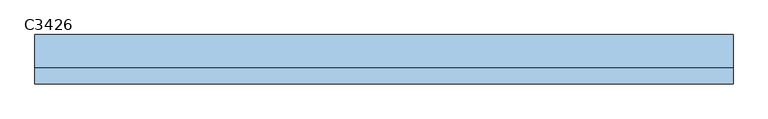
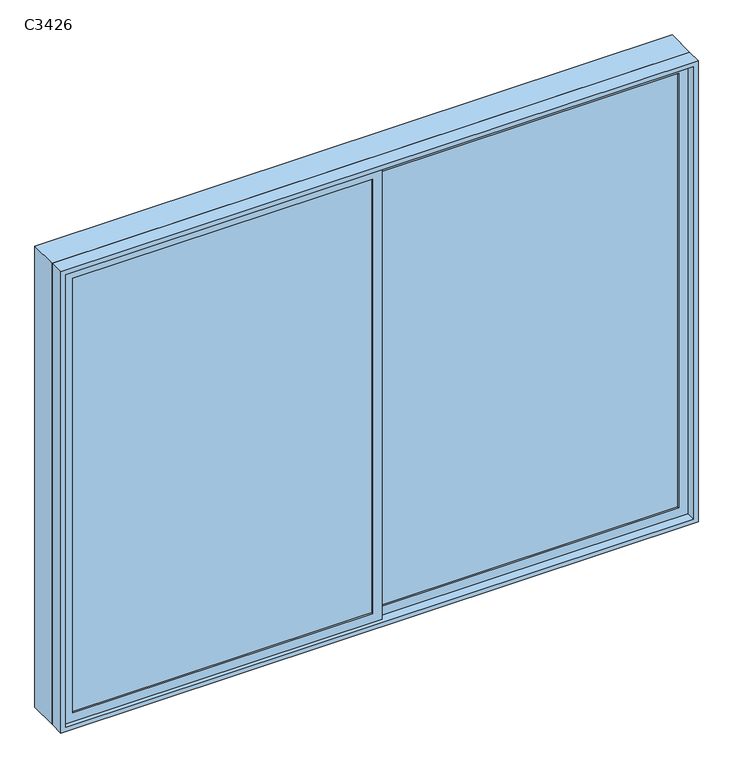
"""IFC4 building model written with IfcOpenShell, lengths in millimetres: window geometry, 推拉窗6 : C3426."""

from ifc_helpers import new_model, si_unit, frame, origin, place, context, project, spatial, polyline, outline, extrude, source, transform, mapped, element, save


def c3426_fe1ed481(model_context):
    return source(origin(), model_context, "Body", "SweptSolid", [
        extrude(outline(polyline([(-1615.475, -23.1265625), (-1615.475, -13.1265625), (-15.475, -13.1265625), (-15.475, -23.1265625), (-1615.475, -23.1265625)])), frame((0.0, 0.0, 675.0), z_axis=(0.0, 0.0, 1.0), x_axis=(1.0, 0.0, 0.0)), (0.0, 0.0, 1.0), 2450.0),
        extrude(outline(polyline([(34.525, 6.8734375), (34.525, 16.8734375), (1634.525, 16.8734375), (1634.525, 6.8734375), (34.525, 6.8734375)])), frame((0.0, 0.0, 675.0), z_axis=(0.0, 0.0, 1.0), x_axis=(1.0, 0.0, 0.0)), (0.0, 0.0, 1.0), 2450.0),
        extrude(outline(polyline([(3200.0, -1690.475), (600.0, -1690.475), (600.0, 1709.525), (3200.0, 1709.525), (3200.0, -1690.475)]), holes=[polyline([(3145.0, 1659.525), (655.0, 1659.525), (655.0, -1640.475), (3145.0, -1640.475), (3145.0, 1659.525)])]), frame((0.0, 26.8734375, 0.0), z_axis=(0.0, 1.0, 0.0), x_axis=(0.0, 0.0, 1.0)), (0.0, 0.0, 1.0), 160.0),
        extrude(outline(polyline([(625.0, 34.525), (3175.0, 34.525), (3175.0, -1665.475), (625.0, -1665.475), (625.0, 34.525)]), holes=[polyline([(675.0, -15.475), (675.0, -1615.475), (3125.0, -1615.475), (3125.0, -15.475), (675.0, -15.475)])]), frame((0.0, -33.1265625, 0.0), z_axis=(0.0, 1.0, 0.0), x_axis=(0.0, 0.0, 1.0)), (0.0, 0.0, 1.0), 30.0),
        extrude(outline(polyline([(3175.0, -15.475), (625.0, -15.475), (625.0, 1684.525), (3175.0, 1684.525), (3175.0, -15.475)]), holes=[polyline([(3125.0, 34.525), (3125.0, 1634.525), (675.0, 1634.525), (675.0, 34.525), (3125.0, 34.525)])]), frame((0.0, -3.1265625, 0.0), z_axis=(0.0, 1.0, 0.0), x_axis=(0.0, 0.0, 1.0)), (0.0, 0.0, 1.0), 30.0),
        extrude(outline(polyline([(3200.0, -1690.475), (600.0, -1690.475), (600.0, 1709.525), (3200.0, 1709.525), (3200.0, -1690.475)]), holes=[polyline([(625.0, -1665.475), (3175.0, -1665.475), (3175.0, 1684.525), (625.0, 1684.525), (625.0, -1665.475)])]), frame((0.0, -53.1265625, 0.0), z_axis=(0.0, 1.0, 0.0), x_axis=(0.0, 0.0, 1.0)), (0.0, 0.0, 1.0), 80.0),
    ])


if __name__ == "__main__":
    model = new_model("IFC4")
    model_context = context("Model", 3, world=origin())
    ifc_project = project(units=[si_unit("LENGTHUNIT", "METRE", prefix="MILLI")], contexts=[model_context])
    site = spatial("IfcSite", under=ifc_project)
    building = spatial("IfcBuilding", under=site)
    placement = place(None, origin())
    c3426_shape = c3426_fe1ed481(model_context)
    element("IfcWindow", 1, ObjectType="推拉窗6 : C3426", at=placement, inside=building, context=model_context, shape_type="MappedRepresentation", body=[
        mapped(c3426_shape, transform((0.0, 0.0, 0.0), x_axis=(1.0, 0.0, 0.0), y_axis=(0.0, 1.0, 0.0), z_axis=(0.0, 0.0, 1.0))),
    ])
    save(model, "model.ifc")
